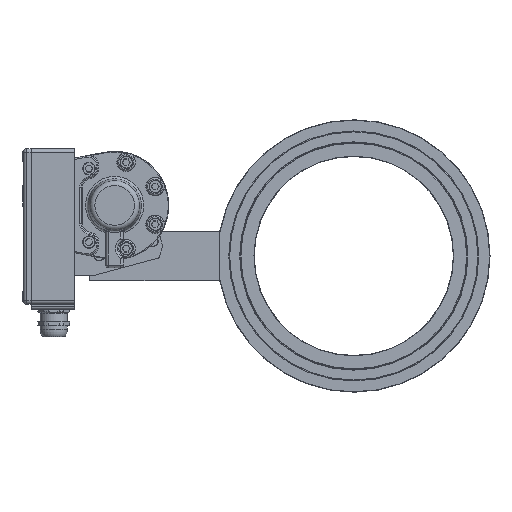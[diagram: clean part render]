
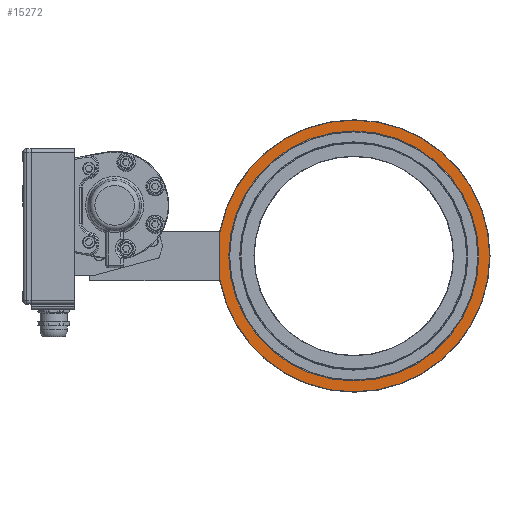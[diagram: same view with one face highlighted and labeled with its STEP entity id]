
A CAD part, top view. The second image highlights one B-rep face of the part: STEP entity #15272.
In plain terms, the highlighted planar face has unit normal (0, 0, 1).
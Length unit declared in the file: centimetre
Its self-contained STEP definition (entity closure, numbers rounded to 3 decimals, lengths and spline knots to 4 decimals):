
#2467=VECTOR('',#18659,1.);
#3526=LINE('',#30978,#2467);
#4378=PLANE('',#16398);
#5220=VERTEX_POINT('',#30776);
#5221=VERTEX_POINT('',#30778);
#5235=VERTEX_POINT('',#30977);
#6400=CIRCLE('',#16476,10.925);
#6403=CIRCLE('',#16495,10.05);
#7376=EDGE_CURVE('',#5220,#5221,#6400,.T.);
#7412=EDGE_CURVE('',#5235,#5235,#6403,.T.);
#7413=EDGE_CURVE('',#5220,#5221,#3526,.T.);
#10234=ORIENTED_EDGE('',*,*,#7412,.T.);
#10235=ORIENTED_EDGE('',*,*,#7376,.F.);
#10236=ORIENTED_EDGE('',*,*,#7413,.T.);
#13125=EDGE_LOOP('',(#10234));
#13126=EDGE_LOOP('',(#10235,#10236));
#14284=FACE_BOUND('',#13125,.T.);
#14285=FACE_BOUND('',#13126,.T.);
#15272=ADVANCED_FACE('',(#14284,#14285),#4378,.F.);
#16398=AXIS2_PLACEMENT_3D('',#30151,#18424,$);
#16476=AXIS2_PLACEMENT_3D('',#30777,#18606,#18607);
#16495=AXIS2_PLACEMENT_3D('',#30976,#18657,#18658);
#18424=DIRECTION('',(0.,0.,-1.));
#18606=DIRECTION('',(0.,0.,-1.));
#18607=DIRECTION('',(10.925,0.,0.));
#18657=DIRECTION('',(0.,0.,-1.));
#18658=DIRECTION('',(10.05,0.,0.));
#18659=DIRECTION('',(0.,-1.,0.));
#30151=CARTESIAN_POINT('',(18.134,-2.8808,-5.7025));
#30776=CARTESIAN_POINT('',(7.3682,-1.0225,-5.7025));
#30777=CARTESIAN_POINT('',(18.134,-2.8808,-5.7025));
#30778=CARTESIAN_POINT('',(7.3682,-4.739,-5.7025));
#30976=CARTESIAN_POINT('',(18.134,-2.8808,-5.7025));
#30977=CARTESIAN_POINT('',(28.184,-2.8808,-5.7025));
#30978=CARTESIAN_POINT('',(7.3682,-2.8808,-5.7025));
